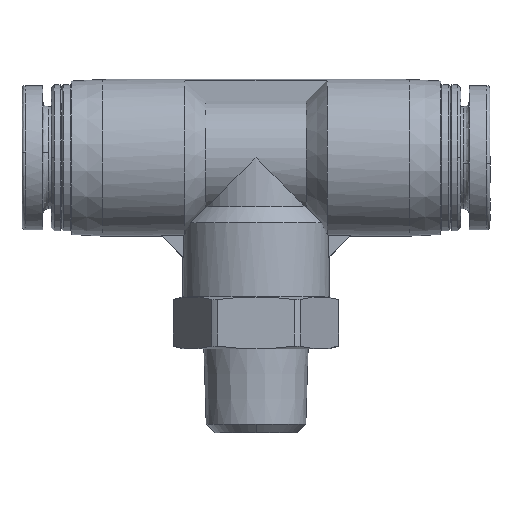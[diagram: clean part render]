
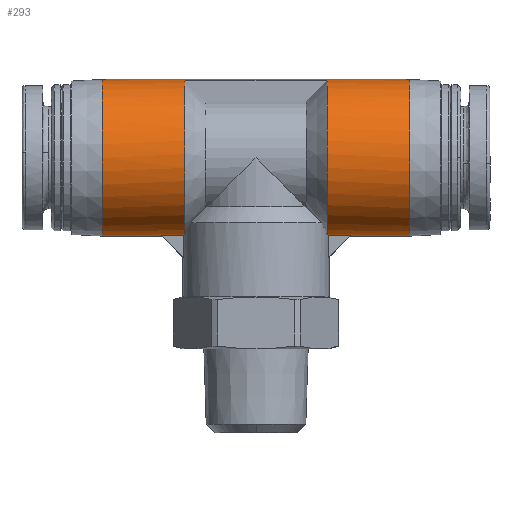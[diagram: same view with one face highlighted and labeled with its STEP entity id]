
A CAD part, front view. The second image highlights one B-rep face of the part: STEP entity #293.
In plain terms, the highlighted cylindrical face has radius 7.5 mm (diameter 15 mm), a partial arc.
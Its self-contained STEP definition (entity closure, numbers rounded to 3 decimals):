
#27 = ORIENTED_EDGE ( 'NONE', *, *, #4028, .T. ) ;
#30 = CARTESIAN_POINT ( 'NONE',  ( 6.928, -1., 18.867 ) ) ;
#52 = CARTESIAN_POINT ( 'NONE',  ( 14.7, 0., 26.3 ) ) ;
#73 = CARTESIAN_POINT ( 'NONE',  ( 14.7, 0., 18.8 ) ) ;
#85 = CARTESIAN_POINT ( 'NONE',  ( -6.8, -1., 33.733 ) ) ;
#106 = VERTEX_POINT ( 'NONE', #3099 ) ;
#108 = DIRECTION ( 'NONE',  ( -1., 0., 0. ) ) ;
#163 = EDGE_CURVE ( 'NONE', #773, #1729, #632, .T. ) ;
#168 = CARTESIAN_POINT ( 'NONE',  ( -9., 0., 18.8 ) ) ;
#176 = AXIS2_PLACEMENT_3D ( 'NONE', #1782, #3030, #221 ) ;
#221 = DIRECTION ( 'NONE',  ( 0., 0., 1. ) ) ;
#244 = VERTEX_POINT ( 'NONE', #3743 ) ;
#289 = VECTOR ( 'NONE', #2501, 1000. ) ;
#291 = DIRECTION ( 'NONE',  ( -1., 0., 0. ) ) ;
#293 = ADVANCED_FACE ( '46', ( #3431 ), #3253, .T. ) ;
#321 = CARTESIAN_POINT ( 'NONE',  ( 14.7, 0., 33.8 ) ) ;
#335 = CARTESIAN_POINT ( 'NONE',  ( 14.7, -1., 18.867 ) ) ;
#378 = CARTESIAN_POINT ( 'NONE',  ( 14.7, 0., 33.8 ) ) ;
#412 = VECTOR ( 'NONE', #291, 1000. ) ;
#442 = DIRECTION ( 'NONE',  ( 0., 0., 1. ) ) ;
#488 = ORIENTED_EDGE ( 'NONE', *, *, #571, .T. ) ;
#510 = EDGE_CURVE ( 'NONE', #3116, #3465, #2645, .T. ) ;
#538 = B_SPLINE_CURVE_WITH_KNOTS ( 'NONE', 3,
 ( #30, #1540, #3106, #3730 ),
 .UNSPECIFIED., .F., .F.,
 ( 4, 4 ),
 ( 0., 0.001 ),
 .UNSPECIFIED. ) ;
#550 = DIRECTION ( 'NONE',  ( 1., 0., 0. ) ) ;
#553 = EDGE_CURVE ( 'NONE', #3630, #3891, #2866, .T. ) ;
#565 = EDGE_CURVE ( 'NONE', #106, #3891, #1204, .T. ) ;
#571 = EDGE_CURVE ( 'NONE', #3630, #773, #3165, .T. ) ;
#632 = LINE ( 'NONE', #378, #412 ) ;
#638 = ORIENTED_EDGE ( 'NONE', *, *, #2979, .F. ) ;
#674 = CARTESIAN_POINT ( 'NONE',  ( 9.067, -1., 18.867 ) ) ;
#723 = CARTESIAN_POINT ( 'NONE',  ( 14.7, -1., 33.733 ) ) ;
#773 = VERTEX_POINT ( 'NONE', #321 ) ;
#880 = AXIS2_PLACEMENT_3D ( 'NONE', #982, #1605, #1623 ) ;
#881 = VERTEX_POINT ( 'NONE', #1483 ) ;
#882 = DIRECTION ( 'NONE',  ( 0., 0., 1. ) ) ;
#895 = ORIENTED_EDGE ( 'NONE', *, *, #1901, .F. ) ;
#911 = CARTESIAN_POINT ( 'NONE',  ( 6.928, -1., 18.867 ) ) ;
#922 = CARTESIAN_POINT ( 'NONE',  ( -6.8, -1.661, 18.986 ) ) ;
#982 = CARTESIAN_POINT ( 'NONE',  ( -6.8, 0., 26.3 ) ) ;
#986 = CARTESIAN_POINT ( 'NONE',  ( 14.7, 0., 18.8 ) ) ;
#1070 = LINE ( 'NONE', #723, #3698 ) ;
#1089 = VERTEX_POINT ( 'NONE', #3500 ) ;
#1203 = EDGE_CURVE ( 'NONE', #881, #1391, #3786, .T. ) ;
#1204 =( BOUNDED_CURVE ( )  B_SPLINE_CURVE ( 3, ( #674, #3214, #1352, #1317 ),
 .UNSPECIFIED., .F., .T. ) 
 B_SPLINE_CURVE_WITH_KNOTS ( ( 4, 4 ),
 ( 6.149, 6.283 ),
 .UNSPECIFIED. ) 
 CURVE ( )  GEOMETRIC_REPRESENTATION_ITEM ( )  RATIONAL_B_SPLINE_CURVE ( ( 1., 0.999, 0.999, 1. ) ) 
 REPRESENTATION_ITEM ( '' )  );
#1226 = CARTESIAN_POINT ( 'NONE',  ( -6.928, -1., 18.867 ) ) ;
#1233 = ORIENTED_EDGE ( 'NONE', *, *, #1203, .T. ) ;
#1317 = CARTESIAN_POINT ( 'NONE',  ( 9., 0., 18.8 ) ) ;
#1352 = CARTESIAN_POINT ( 'NONE',  ( 9., -0.335, 18.8 ) ) ;
#1391 = VERTEX_POINT ( 'NONE', #3826 ) ;
#1403 = AXIS2_PLACEMENT_3D ( 'NONE', #1412, #3703, #882 ) ;
#1412 = CARTESIAN_POINT ( 'NONE',  ( -14.7, 0., 26.3 ) ) ;
#1428 = CARTESIAN_POINT ( 'NONE',  ( -9., -0.335, 18.8 ) ) ;
#1449 = EDGE_CURVE ( 'NONE', #3911, #106, #2559, .T. ) ;
#1457 = CARTESIAN_POINT ( 'NONE',  ( -14.7, 0., 33.8 ) ) ;
#1483 = CARTESIAN_POINT ( 'NONE',  ( -9., 0., 18.8 ) ) ;
#1540 = CARTESIAN_POINT ( 'NONE',  ( 6.896, -1.224, 18.897 ) ) ;
#1577 = VECTOR ( 'NONE', #550, 1000. ) ;
#1605 = DIRECTION ( 'NONE',  ( -1., 0., 0. ) ) ;
#1606 = ORIENTED_EDGE ( 'NONE', *, *, #1449, .T. ) ;
#1623 = DIRECTION ( 'NONE',  ( 0., 0., 1. ) ) ;
#1720 = AXIS2_PLACEMENT_3D ( 'NONE', #3563, #108, #442 ) ;
#1729 = VERTEX_POINT ( 'NONE', #1457 ) ;
#1731 = LINE ( 'NONE', #3365, #1577 ) ;
#1746 = CARTESIAN_POINT ( 'NONE',  ( -9.067, -1., 18.867 ) ) ;
#1750 = CARTESIAN_POINT ( 'NONE',  ( -6.928, -1., 18.867 ) ) ;
#1782 = CARTESIAN_POINT ( 'NONE',  ( 6.8, 0., 26.3 ) ) ;
#1788 = ORIENTED_EDGE ( 'NONE', *, *, #2084, .T. ) ;
#1864 = EDGE_CURVE ( 'NONE', #3911, #244, #538, .T. ) ;
#1901 = EDGE_CURVE ( 'NONE', #881, #1089, #2784, .T. ) ;
#1955 = DIRECTION ( 'NONE',  ( -1., 0., 0. ) ) ;
#1966 = CARTESIAN_POINT ( 'NONE',  ( 6.8, -1., 33.733 ) ) ;
#2017 = CARTESIAN_POINT ( 'NONE',  ( -9.022, -0.668, 18.822 ) ) ;
#2084 = EDGE_CURVE ( 'NONE', #1391, #3716, #1731, .T. ) ;
#2086 = CARTESIAN_POINT ( 'NONE',  ( -6.8, -1.661, 18.986 ) ) ;
#2183 = EDGE_CURVE ( 'NONE', #1729, #1089, #3186, .T. ) ;
#2410 = CARTESIAN_POINT ( 'NONE',  ( 9., 0., 18.8 ) ) ;
#2450 = AXIS2_PLACEMENT_3D ( 'NONE', #52, #3569, #3848 ) ;
#2501 = DIRECTION ( 'NONE',  ( -1., 0., 0. ) ) ;
#2542 = CIRCLE ( 'NONE', #176, 7.5 ) ;
#2559 = LINE ( 'NONE', #335, #3208 ) ;
#2606 = ORIENTED_EDGE ( 'NONE', *, *, #1864, .F. ) ;
#2645 = CIRCLE ( 'NONE', #880, 7.5 ) ;
#2646 = DIRECTION ( 'NONE',  ( 1., 0., 0. ) ) ;
#2701 = DIRECTION ( 'NONE',  ( 1., 0., 0. ) ) ;
#2784 = LINE ( 'NONE', #986, #289 ) ;
#2810 = EDGE_CURVE ( 'NONE', #3465, #3628, #1070, .T. ) ;
#2866 = LINE ( 'NONE', #73, #3021 ) ;
#2906 = ORIENTED_EDGE ( 'NONE', *, *, #163, .T. ) ;
#2970 = CARTESIAN_POINT ( 'NONE',  ( 14.7, 0., 18.8 ) ) ;
#2979 = EDGE_CURVE ( 'NONE', #3116, #3716, #3552, .T. ) ;
#3021 = VECTOR ( 'NONE', #1955, 1000. ) ;
#3030 = DIRECTION ( 'NONE',  ( 1., 0., 0. ) ) ;
#3035 = ORIENTED_EDGE ( 'NONE', *, *, #565, .T. ) ;
#3099 = CARTESIAN_POINT ( 'NONE',  ( 9.067, -1., 18.867 ) ) ;
#3106 = CARTESIAN_POINT ( 'NONE',  ( 6.853, -1.445, 18.937 ) ) ;
#3116 = VERTEX_POINT ( 'NONE', #922 ) ;
#3165 = CIRCLE ( 'NONE', #2450, 7.5 ) ;
#3186 = CIRCLE ( 'NONE', #1403, 7.5 ) ;
#3208 = VECTOR ( 'NONE', #2701, 1000. ) ;
#3214 = CARTESIAN_POINT ( 'NONE',  ( 9.022, -0.668, 18.822 ) ) ;
#3229 = ORIENTED_EDGE ( 'NONE', *, *, #2183, .T. ) ;
#3253 = CYLINDRICAL_SURFACE ( 'NONE', #1720, 7.5 ) ;
#3323 = CARTESIAN_POINT ( 'NONE',  ( -6.896, -1.224, 18.897 ) ) ;
#3365 = CARTESIAN_POINT ( 'NONE',  ( -6.3, -1., 18.867 ) ) ;
#3431 = FACE_OUTER_BOUND ( 'NONE', #3737, .T. ) ;
#3465 = VERTEX_POINT ( 'NONE', #85 ) ;
#3500 = CARTESIAN_POINT ( 'NONE',  ( -14.7, 0., 18.8 ) ) ;
#3552 = B_SPLINE_CURVE_WITH_KNOTS ( 'NONE', 3,
 ( #2086, #3994, #3323, #1750 ),
 .UNSPECIFIED., .F., .F.,
 ( 4, 4 ),
 ( 0., 0.001 ),
 .UNSPECIFIED. ) ;
#3559 = ORIENTED_EDGE ( 'NONE', *, *, #510, .T. ) ;
#3563 = CARTESIAN_POINT ( 'NONE',  ( 14.7, 0., 26.3 ) ) ;
#3569 = DIRECTION ( 'NONE',  ( -1., 0., 0. ) ) ;
#3628 = VERTEX_POINT ( 'NONE', #1966 ) ;
#3630 = VERTEX_POINT ( 'NONE', #2970 ) ;
#3698 = VECTOR ( 'NONE', #2646, 1000. ) ;
#3703 = DIRECTION ( 'NONE',  ( 1., 0., 0. ) ) ;
#3716 = VERTEX_POINT ( 'NONE', #1226 ) ;
#3730 = CARTESIAN_POINT ( 'NONE',  ( 6.8, -1.661, 18.986 ) ) ;
#3737 = EDGE_LOOP ( 'NONE', ( #3745, #488, #2906, #3229, #895, #1233, #1788, #638, #3559, #4054, #27, #2606, #1606, #3035 ) ) ;
#3743 = CARTESIAN_POINT ( 'NONE',  ( 6.8, -1.661, 18.986 ) ) ;
#3745 = ORIENTED_EDGE ( 'NONE', *, *, #553, .F. ) ;
#3786 =( BOUNDED_CURVE ( )  B_SPLINE_CURVE ( 3, ( #168, #1428, #2017, #1746 ),
 .UNSPECIFIED., .F., .T. ) 
 B_SPLINE_CURVE_WITH_KNOTS ( ( 4, 4 ),
 ( 3.142, 3.275 ),
 .UNSPECIFIED. ) 
 CURVE ( )  GEOMETRIC_REPRESENTATION_ITEM ( )  RATIONAL_B_SPLINE_CURVE ( ( 1., 0.999, 0.999, 1. ) ) 
 REPRESENTATION_ITEM ( '' )  );
#3826 = CARTESIAN_POINT ( 'NONE',  ( -9.067, -1., 18.867 ) ) ;
#3848 = DIRECTION ( 'NONE',  ( 0., 0., 1. ) ) ;
#3891 = VERTEX_POINT ( 'NONE', #2410 ) ;
#3911 = VERTEX_POINT ( 'NONE', #911 ) ;
#3994 = CARTESIAN_POINT ( 'NONE',  ( -6.853, -1.445, 18.937 ) ) ;
#4028 = EDGE_CURVE ( 'NONE', #3628, #244, #2542, .T. ) ;
#4054 = ORIENTED_EDGE ( 'NONE', *, *, #2810, .T. ) ;
